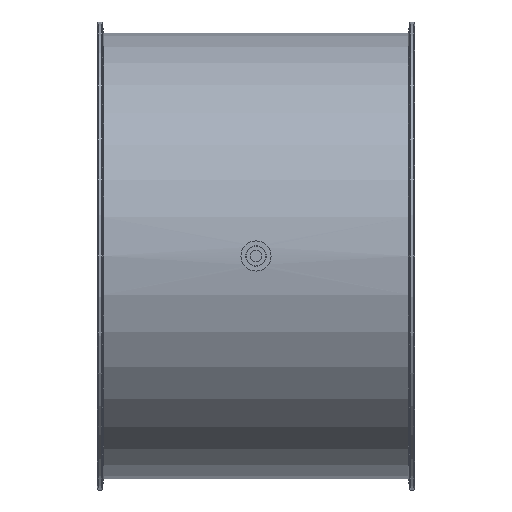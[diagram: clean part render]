
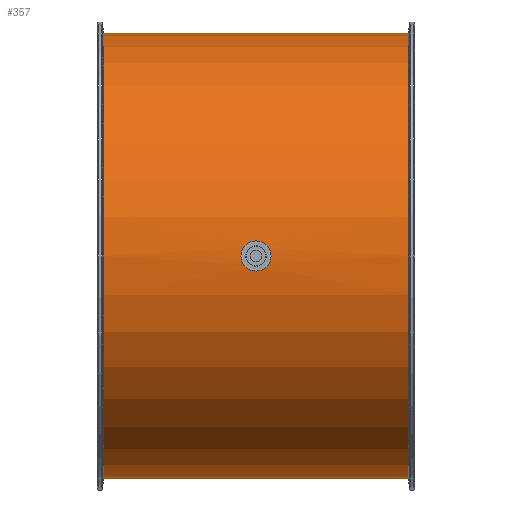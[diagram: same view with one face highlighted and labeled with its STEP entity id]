
A CAD part, front view. The second image highlights one B-rep face of the part: STEP entity #357.
In plain terms, the highlighted cylindrical face has radius 281 mm (diameter 562 mm), a full revolution.
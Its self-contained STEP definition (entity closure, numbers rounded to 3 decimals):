
#101=B_SPLINE_CURVE_WITH_KNOTS('',3,(#1757,#1758,#1759,#1760,#1761,#1762,
#1763,#1764,#1765,#1766,#1767,#1768,#1769,#1770,#1771,#1772,#1773,#1774),
 .UNSPECIFIED.,.T.,.F.,(2,2,2,2,2,2,2,2,2,2,2),(-0.125,0.,0.125,0.25,0.375,
0.5,0.625,0.75,0.875,1.,1.125),.UNSPECIFIED.);
#102=B_SPLINE_CURVE_WITH_KNOTS('',3,(#1776,#1777,#1778,#1779,#1780,#1781,
#1782,#1783,#1784,#1785,#1786,#1787,#1788,#1789,#1790,#1791,#1792,#1793),
 .UNSPECIFIED.,.T.,.F.,(2,2,2,2,2,2,2,2,2,2,2),(-0.125,0.,0.125,0.25,0.375,
0.5,0.625,0.75,0.875,1.,1.125),.UNSPECIFIED.);
#165=FACE_BOUND('',#527,.T.);
#166=FACE_BOUND('',#528,.T.);
#167=FACE_BOUND('',#529,.T.);
#168=FACE_BOUND('',#530,.T.);
#244=CYLINDRICAL_SURFACE('',#1224,281.);
#290=CIRCLE('',#1219,281.);
#292=CIRCLE('',#1222,281.);
#357=ADVANCED_FACE('',(#165,#166,#167,#168),#244,.T.);
#527=EDGE_LOOP('',(#685));
#528=EDGE_LOOP('',(#686));
#529=EDGE_LOOP('',(#687));
#530=EDGE_LOOP('',(#688));
#685=ORIENTED_EDGE('',*,*,#990,.F.);
#686=ORIENTED_EDGE('',*,*,#992,.F.);
#687=ORIENTED_EDGE('',*,*,#993,.F.);
#688=ORIENTED_EDGE('',*,*,#994,.F.);
#892=VERTEX_POINT('',#1750);
#894=VERTEX_POINT('',#1755);
#895=VERTEX_POINT('',#1775);
#896=VERTEX_POINT('',#1794);
#990=EDGE_CURVE('',#892,#892,#290,.T.);
#992=EDGE_CURVE('',#894,#894,#292,.T.);
#993=EDGE_CURVE('',#895,#895,#101,.T.);
#994=EDGE_CURVE('',#896,#896,#102,.T.);
#1219=AXIS2_PLACEMENT_3D('',#1749,#1418,#1419);
#1222=AXIS2_PLACEMENT_3D('',#1754,#1424,#1425);
#1224=AXIS2_PLACEMENT_3D('',#1795,#1428,#1429);
#1418=DIRECTION('',(1.,0.,0.));
#1419=DIRECTION('',(0.,0.,-1.));
#1424=DIRECTION('',(-1.,0.,0.));
#1425=DIRECTION('',(0.,0.,1.));
#1428=DIRECTION('',(1.,0.,0.));
#1429=DIRECTION('',(0.,0.,-1.));
#1749=CARTESIAN_POINT('',(192.133,-109.,125.));
#1750=CARTESIAN_POINT('',(192.133,-109.,-156.));
#1754=CARTESIAN_POINT('',(-192.133,-109.,125.));
#1755=CARTESIAN_POINT('',(-192.133,-109.,406.));
#1757=CARTESIAN_POINT('',(3.436,171.699,112.));
#1758=CARTESIAN_POINT('',(-3.436,171.699,112.));
#1759=CARTESIAN_POINT('',(-6.795,171.771,113.41));
#1760=CARTESIAN_POINT('',(-11.591,171.928,118.207));
#1761=CARTESIAN_POINT('',(-12.998,172.,121.601));
#1762=CARTESIAN_POINT('',(-13.002,172.,128.385));
#1763=CARTESIAN_POINT('',(-11.623,171.929,131.76));
#1764=CARTESIAN_POINT('',(-6.771,171.77,136.616));
#1765=CARTESIAN_POINT('',(-3.398,171.699,137.999));
#1766=CARTESIAN_POINT('',(3.389,171.699,138.001));
#1767=CARTESIAN_POINT('',(6.784,171.771,136.596));
#1768=CARTESIAN_POINT('',(11.583,171.928,131.806));
#1769=CARTESIAN_POINT('',(12.997,172.,128.443));
#1770=CARTESIAN_POINT('',(13.003,172.,121.583));
#1771=CARTESIAN_POINT('',(11.598,171.928,118.217));
#1772=CARTESIAN_POINT('',(6.802,171.771,113.413));
#1773=CARTESIAN_POINT('',(3.436,171.699,112.));
#1774=CARTESIAN_POINT('',(-3.436,171.699,112.));
#1775=CARTESIAN_POINT('',(0.,171.699,112.));
#1776=CARTESIAN_POINT('',(-3.436,-389.699,112.));
#1777=CARTESIAN_POINT('',(3.436,-389.699,112.));
#1778=CARTESIAN_POINT('',(6.795,-389.771,113.41));
#1779=CARTESIAN_POINT('',(11.591,-389.928,118.207));
#1780=CARTESIAN_POINT('',(12.998,-390.,121.601));
#1781=CARTESIAN_POINT('',(13.002,-390.,128.385));
#1782=CARTESIAN_POINT('',(11.623,-389.929,131.76));
#1783=CARTESIAN_POINT('',(6.771,-389.77,136.616));
#1784=CARTESIAN_POINT('',(3.398,-389.699,137.999));
#1785=CARTESIAN_POINT('',(-3.389,-389.699,138.001));
#1786=CARTESIAN_POINT('',(-6.784,-389.771,136.596));
#1787=CARTESIAN_POINT('',(-11.583,-389.928,131.806));
#1788=CARTESIAN_POINT('',(-12.997,-390.,128.443));
#1789=CARTESIAN_POINT('',(-13.003,-390.,121.583));
#1790=CARTESIAN_POINT('',(-11.598,-389.928,118.217));
#1791=CARTESIAN_POINT('',(-6.802,-389.771,113.413));
#1792=CARTESIAN_POINT('',(-3.436,-389.699,112.));
#1793=CARTESIAN_POINT('',(3.436,-389.699,112.));
#1794=CARTESIAN_POINT('',(0.,-389.699,112.));
#1795=CARTESIAN_POINT('',(-200.,-109.,125.));
